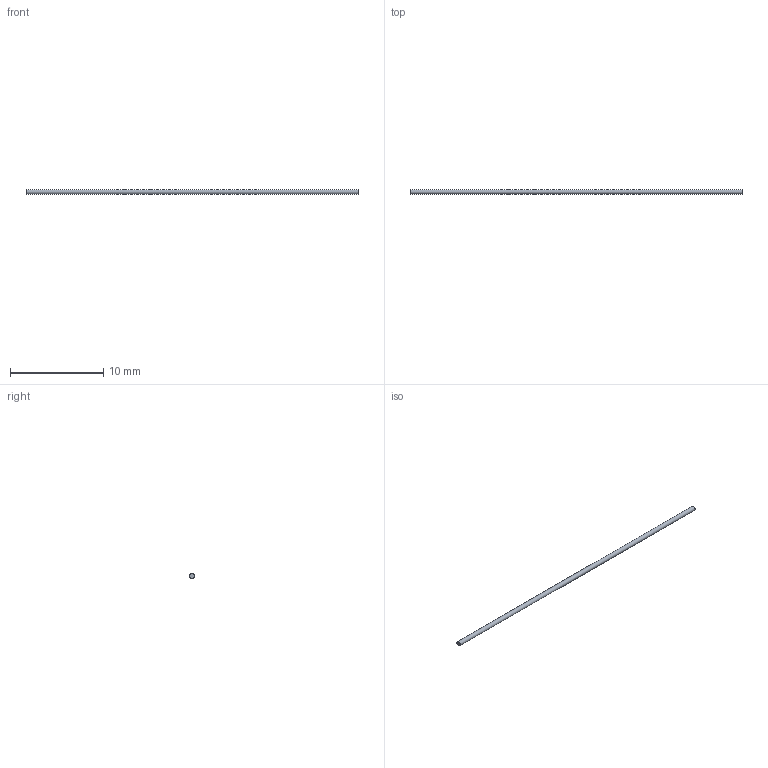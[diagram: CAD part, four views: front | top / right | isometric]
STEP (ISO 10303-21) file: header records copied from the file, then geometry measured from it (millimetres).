
FILE_DESCRIPTION(('FreeCAD Model'),'2;1');
FILE_NAME('Open CASCADE Shape Model','2026-04-07T19:07:43',('FreeCAD'),( 'FreeCAD'),'Open CASCADE STEP processor 7.8','FreeCAD','Unknown');
FILE_SCHEMA(('AUTOMOTIVE_DESIGN { 1 0 10303 214 1 1 1 1 }'));
Length unit declared in the file: millimetre
Products named in the file (1): Open CASCADE STEP translator 7.8 29
Bounding box: 35.56 x 0.5 x 0.5 mm (x, y, z)
Volume: 7 mm3; surface area: 56.3 mm2
Topology: 1 solids, 1 shells, 3 faces, 3 edges, 2 vertices
Faces by surface type: plane 2, cylinder 1
Full cylindrical faces by diameter (mm): 0.5 x1
Entity records: 69 total; most frequent: DIRECTION 13, CARTESIAN_POINT 9, AXIS2_PLACEMENT_3D 6, ORIENTED_EDGE 6, ADVANCED_FACE 3, FACE_BOUND 3, EDGE_LOOP 3, EDGE_CURVE 3
